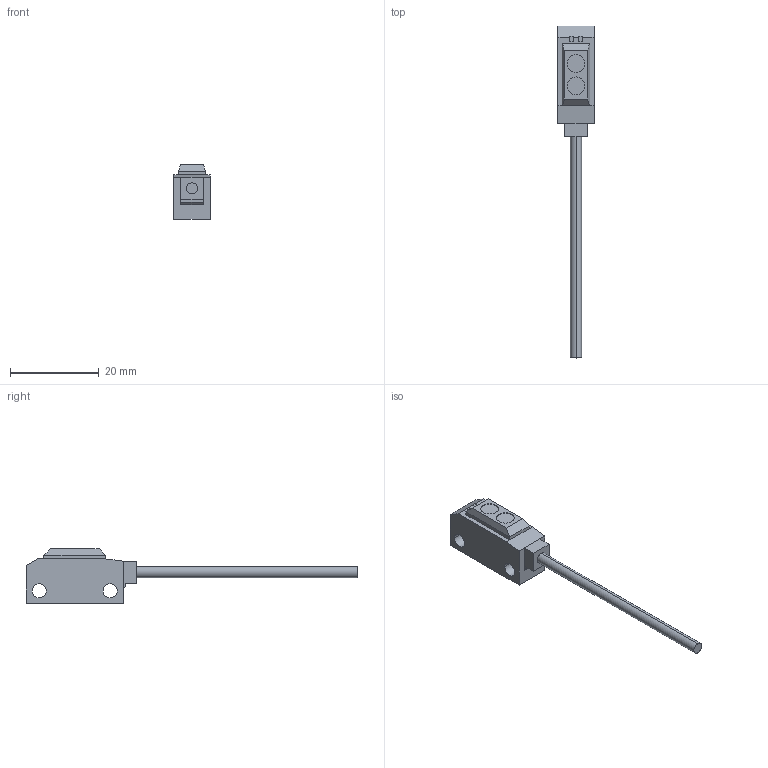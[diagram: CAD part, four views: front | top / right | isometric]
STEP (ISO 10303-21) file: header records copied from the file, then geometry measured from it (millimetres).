
FILE_DESCRIPTION (( 'STEP AP203' ), '1' );
FILE_NAME ('ex-22a.STEP', '2015-05-26T00:33:30', ( '' ), ( '' ), 'SwSTEP 2.0', 'SolidWorks 2010', '' );
FILE_SCHEMA (( 'CONFIG_CONTROL_DESIGN' ));
Length unit declared in the file: millimetre
Products named in the file (1): ex-22a
Bounding box: 8.2 x 75 x 12.3 mm (x, y, z)
Volume: 2143.6 mm3; surface area: 1602.8 mm2
Topology: 1 solids, 1 shells, 53 faces, 130 edges, 84 vertices
Faces by surface type: plane 41, cylinder 12
Entity records: 1629 total; most frequent: CARTESIAN_POINT 268, DIRECTION 262, ORIENTED_EDGE 260, EDGE_CURVE 130, VECTOR 106, LINE 106, VERTEX_POINT 84, AXIS2_PLACEMENT_3D 78
